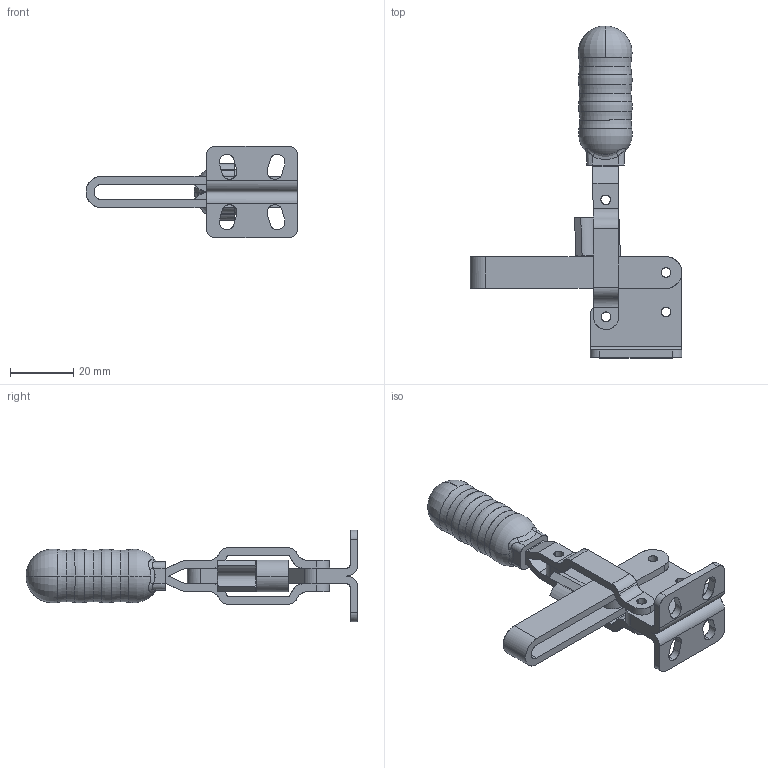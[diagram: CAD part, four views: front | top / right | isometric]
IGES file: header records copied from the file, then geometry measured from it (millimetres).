
Start section: Comment
Global section: file name: 11002b.igs; native system:  By Spatial Corp.; preprocessor: XPlus PS/IGES 3.0; author: Author; organization: Title; date: 20050216.164742; units: inch
Bounding box: 67 x 105 x 29 mm (x, y, z)
Surface area: 14780.1 mm2 (no closed solid volume)
Topology: 0 solids, 0 shells, 188 faces, 1012 edges, 1008 vertices
Faces by surface type: revolution 109, extrusion 71, bspline 8
